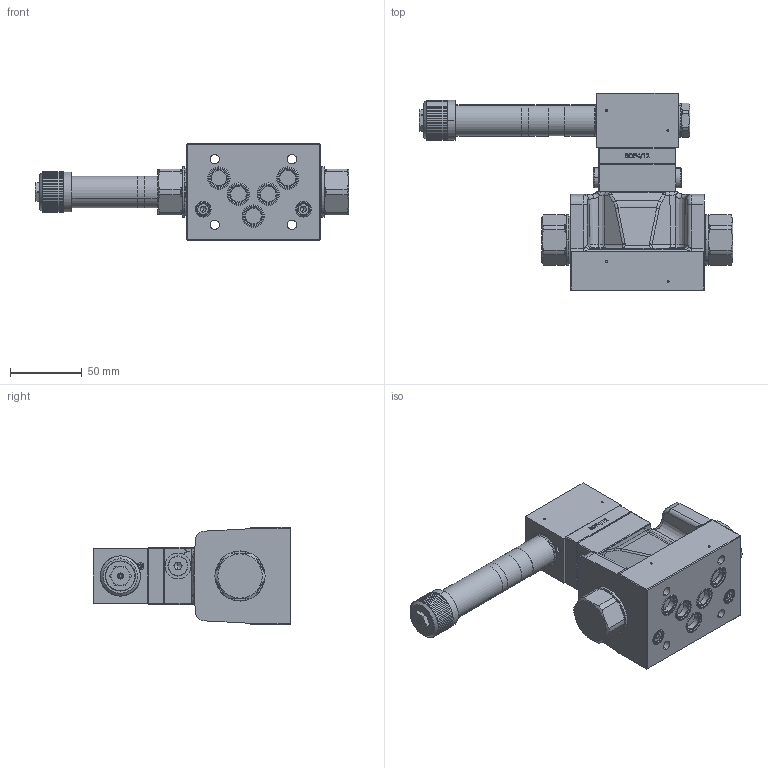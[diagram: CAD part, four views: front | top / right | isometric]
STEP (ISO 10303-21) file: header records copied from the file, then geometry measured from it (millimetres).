
FILE_DESCRIPTION (( 'STEP AP214' ), '1' );
FILE_NAME ('WVZFA10-4_2-Aside-te_pi_pe.STEP', '2019-06-26T06:46:05', ( '' ), ( '' ), 'SwSTEP 2.0', 'SolidWorks 2018', '' );
FILE_SCHEMA (( 'AUTOMOTIVE_DESIGN' ));
Length unit declared in the file: millimetre
Products named in the file (1): WVZFA10-4_2-Aside-te_pi_pe
Bounding box: 219.05 x 138.1 x 68 mm (x, y, z)
Volume: 591162.4 mm3; surface area: 85503.3 mm2
Topology: 13 solids, 19 shells, 1615 faces, 4046 edges, 2553 vertices
Faces by surface type: plane 731, cylinder 419, bspline 226, cone 154, torus 85
Entity records: 74162 total; most frequent: CARTESIAN_POINT 19540, ORIENTED_EDGE 8036, DIRECTION 7146, EDGE_CURVE 4018, AXIS2_PLACEMENT_3D 2574, VERTEX_POINT 2553, LINE 1998, VECTOR 1998
